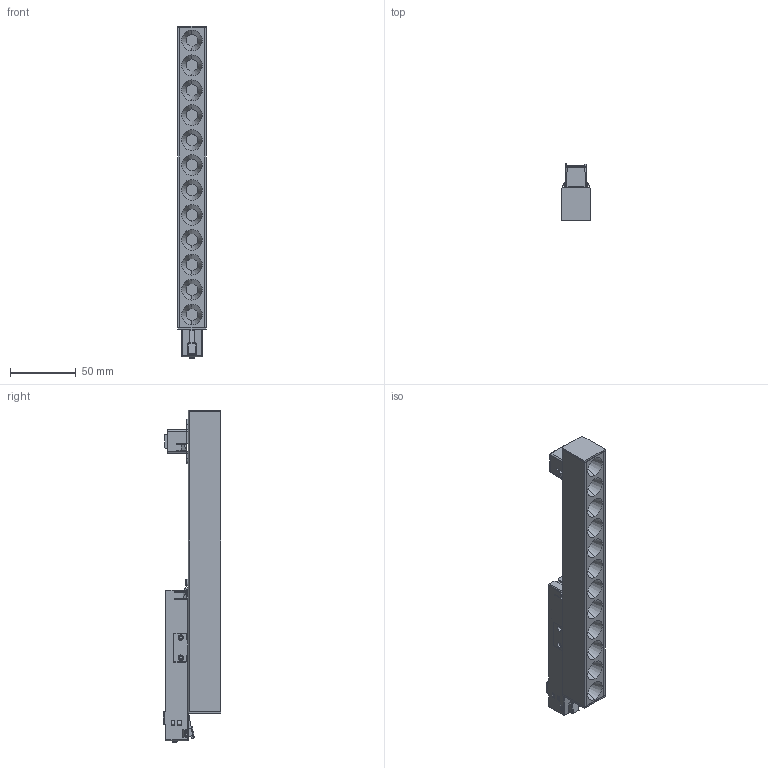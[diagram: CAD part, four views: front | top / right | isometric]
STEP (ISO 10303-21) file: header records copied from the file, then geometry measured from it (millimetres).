
FILE_DESCRIPTION (( 'STEP AP214' ), '1' );
FILE_NAME ('TINA.STEP', '2026-02-05T07:44:53', ( '' ), ( '' ), 'SwSTEP 2.0', 'SolidWorks 2023', '' );
FILE_SCHEMA (( 'AUTOMOTIVE_DESIGN' ));
Length unit declared in the file: millimetre
Products named in the file (34): C__^______________85(2)_882467.STEP; ____1^_______________________85(2)_882467.STEP; ____1-7^______________85(2)_882467.STEP; TINA; 114-VTEC0304-11-3D0.STEP; __________2-2^_______________________85(2)_882467.STEP; ______2^_______________________85(2)_882467.STEP; 2.5-8____^_______________________85(2)_882467.STEP; 48V track spot light 50312DC (1).STEP; ____-5^______________85(2)_882467.STEP; ______1^_______________________85(2)_882467.STEP; __________2^_______________________85(2)_882467.STEP; 817058A.STEP; ____-4^______________85(2)_882467.STEP; ____^_______________________85(2)_882467.STEP; 114-300220-001.STEP; ______^_______________________85(2)_882467.STEP; ____-6^______________85(2)_882467.STEP; 817059A.STEP; 817062A1.STEP; 817067A.STEP; ______________85(2)^882467.STEP; ______2-0^_______________________85(2)_882467.STEP; ____-3^______________85(2)_882467.STEP; 817065A.STEP; 882467.STEP; 3-8____^_______________________85(2)_882467.STEP; 817072A.STEP; ____2^______________85(2)_882467.STEP; 817057A1.STEP; ____-1^_______________________85(2)_882467.STEP; ______-8^______________85(2)_882467.STEP; ________^______________85(2)_882467.STEP; 816987A.STEP
Assembly tree (39 placements, depth 6):
  TINA
    48V track spot light 50312DC (1).STEP
      882467.STEP
        ______________85(2)^882467.STEP
          ________^______________85(2)_882467.STEP
            ______1^_______________________85(2)_882467.STEP
            3-8____^_______________________85(2)_882467.STEP
            ____^_______________________85(2)_882467.STEP
            2.5-8____^_______________________85(2)_882467.STEP
            ______2^_______________________85(2)_882467.STEP
            ______2-0^_______________________85(2)_882467.STEP
            ____-1^_______________________85(2)_882467.STEP  x2
            ______^_______________________85(2)_882467.STEP
            ____1^_______________________85(2)_882467.STEP
            __________2^_______________________85(2)_882467.STEP
            __________2-2^_______________________85(2)_882467.STEP
          ____-3^______________85(2)_882467.STEP
          ____-4^______________85(2)_882467.STEP
          ____-5^______________85(2)_882467.STEP
          C__^______________85(2)_882467.STEP
          ____-6^______________85(2)_882467.STEP
          ____2^______________85(2)_882467.STEP  x2
          ____1-7^______________85(2)_882467.STEP  x2
          ______-8^______________85(2)_882467.STEP
      816987A.STEP
      817072A.STEP  x2
      817058A.STEP
      817065A.STEP
      114-300220-001.STEP
      817057A1.STEP
      114-VTEC0304-11-3D0.STEP  x2
      817062A1.STEP
      817059A.STEP  x2
      817067A.STEP
Bounding box: 22.03 x 43.91 x 253.1 mm (x, y, z)
Volume: 76205.7 mm3; surface area: 118976.5 mm2
Topology: 35 solids, 35 shells, 3599 faces, 9902 edges, 6452 vertices
Faces by surface type: plane 2672, cylinder 597, cone 160, bspline 94, sphere 42, torus 34
Entity records: 102118 total; most frequent: CARTESIAN_POINT 27125, ORIENTED_EDGE 16098, DIRECTION 14384, EDGE_CURVE 8049, VECTOR 6192, LINE 6192, VERTEX_POINT 5243, AXIS2_PLACEMENT_3D 4096
